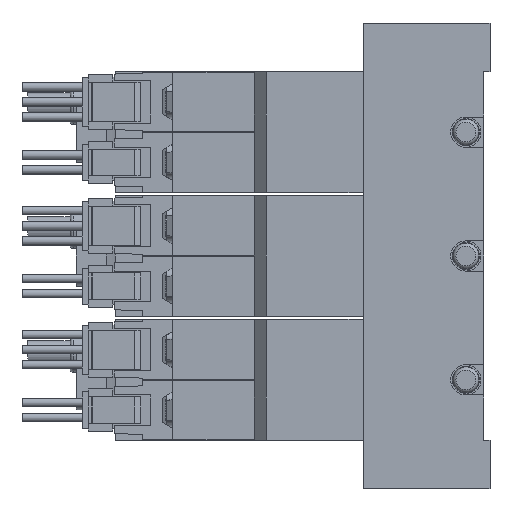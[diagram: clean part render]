
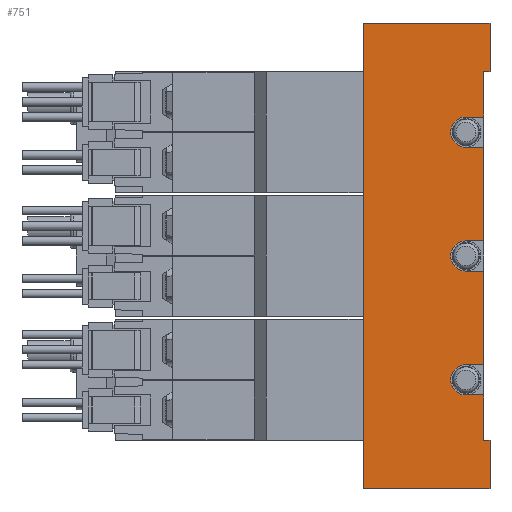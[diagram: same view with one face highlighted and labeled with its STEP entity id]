
A CAD part, left-side view. The second image highlights one B-rep face of the part: STEP entity #751.
In plain terms, the highlighted planar face has unit normal (-1, 0, 0) as drawn and (1, 0, 0) by its records, which use the part's own axes.
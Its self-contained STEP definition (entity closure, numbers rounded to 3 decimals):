
#751=ADVANCED_FACE('',(#1588),#1589,.F.);
#1588=FACE_OUTER_BOUND('',#2528,.T.);
#1589=PLANE('',#2529);
#2528=EDGE_LOOP('',(#5540,#5541,#5542,#5543,#5544,#5545,#5546,#5547,#5548,#5549,#5550,#5551,#5552,#5553,#5554,#5555,#5556,#5557,#5558,#5559));
#2529=AXIS2_PLACEMENT_3D('',#5560,#5561,#5562);
#5540=ORIENTED_EDGE('',*,*,#6853,.T.);
#5541=ORIENTED_EDGE('',*,*,#6844,.T.);
#5542=ORIENTED_EDGE('',*,*,#6854,.F.);
#5543=ORIENTED_EDGE('',*,*,#6855,.F.);
#5544=ORIENTED_EDGE('',*,*,#6856,.T.);
#5545=ORIENTED_EDGE('',*,*,#6857,.T.);
#5546=ORIENTED_EDGE('',*,*,#6858,.T.);
#5547=ORIENTED_EDGE('',*,*,#6859,.F.);
#5548=ORIENTED_EDGE('',*,*,#6860,.F.);
#5549=ORIENTED_EDGE('',*,*,#6836,.F.);
#5550=ORIENTED_EDGE('',*,*,#6861,.T.);
#5551=ORIENTED_EDGE('',*,*,#6862,.F.);
#5552=ORIENTED_EDGE('',*,*,#6863,.F.);
#5553=ORIENTED_EDGE('',*,*,#6864,.F.);
#5554=ORIENTED_EDGE('',*,*,#6865,.T.);
#5555=ORIENTED_EDGE('',*,*,#6819,.F.);
#5556=ORIENTED_EDGE('',*,*,#6817,.F.);
#5557=ORIENTED_EDGE('',*,*,#6866,.F.);
#5558=ORIENTED_EDGE('',*,*,#6867,.T.);
#5559=ORIENTED_EDGE('',*,*,#6868,.T.);
#5560=CARTESIAN_POINT('',(17.5,1.0,38.5));
#5561=DIRECTION('',(-1.0,0.0,0.0));
#5562=DIRECTION('',(0.0,0.0,1.0));
#6817=EDGE_CURVE('',#8422,#8424,#8425,.T.);
#6819=EDGE_CURVE('',#8424,#8427,#8428,.T.);
#6836=EDGE_CURVE('',#8458,#8459,#8460,.T.);
#6844=EDGE_CURVE('',#8473,#8474,#8475,.T.);
#6853=EDGE_CURVE('',#8491,#8473,#8492,.T.);
#6854=EDGE_CURVE('',#8493,#8474,#8494,.T.);
#6855=EDGE_CURVE('',#8495,#8493,#8496,.T.);
#6856=EDGE_CURVE('',#8495,#8497,#8498,.T.);
#6857=EDGE_CURVE('',#8497,#8499,#8500,.T.);
#6858=EDGE_CURVE('',#8499,#8501,#8502,.T.);
#6859=EDGE_CURVE('',#8503,#8501,#8504,.T.);
#6860=EDGE_CURVE('',#8459,#8503,#8505,.T.);
#6861=EDGE_CURVE('',#8458,#8506,#8507,.T.);
#6862=EDGE_CURVE('',#8508,#8506,#8509,.T.);
#6863=EDGE_CURVE('',#8510,#8508,#8511,.T.);
#6864=EDGE_CURVE('',#8512,#8510,#8513,.T.);
#6865=EDGE_CURVE('',#8512,#8427,#8514,.T.);
#6866=EDGE_CURVE('',#8515,#8422,#8516,.T.);
#6867=EDGE_CURVE('',#8515,#8517,#8518,.T.);
#6868=EDGE_CURVE('',#8517,#8491,#8519,.T.);
#8422=VERTEX_POINT('',#11020);
#8424=VERTEX_POINT('',#11023);
#8425=CIRCLE('',#11024,2.5);
#8427=VERTEX_POINT('',#11027);
#8428=LINE('',#11028,#11029);
#8458=VERTEX_POINT('',#11153);
#8459=VERTEX_POINT('',#11154);
#8460=LINE('',#11155,#11156);
#8473=VERTEX_POINT('',#11172);
#8474=VERTEX_POINT('',#11173);
#8475=LINE('',#11174,#11175);
#8491=VERTEX_POINT('',#11196);
#8492=LINE('',#11197,#11198);
#8493=VERTEX_POINT('',#11199);
#8494=LINE('',#11200,#11201);
#8495=VERTEX_POINT('',#11202);
#8496=LINE('',#11203,#11204);
#8497=VERTEX_POINT('',#11205);
#8498=LINE('',#11206,#11207);
#8499=VERTEX_POINT('',#11208);
#8500=LINE('',#11209,#11210);
#8501=VERTEX_POINT('',#11211);
#8502=LINE('',#11212,#11213);
#8503=VERTEX_POINT('',#11214);
#8504=LINE('',#11215,#11216);
#8505=CIRCLE('',#11217,2.5);
#8506=VERTEX_POINT('',#11218);
#8507=LINE('',#11219,#11220);
#8508=VERTEX_POINT('',#11221);
#8509=LINE('',#11222,#11223);
#8510=VERTEX_POINT('',#11224);
#8511=CIRCLE('',#11225,2.5);
#8512=VERTEX_POINT('',#11226);
#8513=LINE('',#11227,#11228);
#8514=LINE('',#11229,#11230);
#8515=VERTEX_POINT('',#11231);
#8516=LINE('',#11232,#11233);
#8517=VERTEX_POINT('',#11234);
#8518=LINE('',#11235,#11236);
#8519=LINE('',#11237,#11238);
#11020=CARTESIAN_POINT('',(17.5,4.0,-23.0));
#11023=CARTESIAN_POINT('',(17.5,4.0,-18.0));
#11024=AXIS2_PLACEMENT_3D('',#12506,#12507,#12508);
#11027=CARTESIAN_POINT('',(17.5,1.0,-18.0));
#11028=CARTESIAN_POINT('',(17.5,1.0,-18.0));
#11029=VECTOR('',#12510,1.0);
#11153=CARTESIAN_POINT('',(17.5,1.0,18.0));
#11154=CARTESIAN_POINT('',(17.5,4.0,18.0));
#11155=CARTESIAN_POINT('',(17.5,1.0,18.0));
#11156=VECTOR('',#12538,1.0);
#11172=CARTESIAN_POINT('',(17.5,0.0,-38.5));
#11173=CARTESIAN_POINT('',(17.5,21.0,-38.5));
#11174=CARTESIAN_POINT('',(17.5,1.0,-38.5));
#11175=VECTOR('',#12554,1.0);
#11196=CARTESIAN_POINT('',(17.5,0.0,-30.5));
#11197=CARTESIAN_POINT('',(17.5,0.0,-30.5));
#11198=VECTOR('',#12569,1.0);
#11199=CARTESIAN_POINT('',(17.5,21.0,38.5));
#11200=CARTESIAN_POINT('',(17.5,21.0,38.5));
#11201=VECTOR('',#12570,1.0);
#11202=CARTESIAN_POINT('',(17.5,0.0,38.5));
#11203=CARTESIAN_POINT('',(17.5,1.0,38.5));
#11204=VECTOR('',#12571,1.0);
#11205=CARTESIAN_POINT('',(17.5,0.0,30.5));
#11206=CARTESIAN_POINT('',(17.5,0.0,38.5));
#11207=VECTOR('',#12572,1.0);
#11208=CARTESIAN_POINT('',(17.5,1.0,30.5));
#11209=CARTESIAN_POINT('',(17.5,0.0,30.5));
#11210=VECTOR('',#12573,1.0);
#11211=CARTESIAN_POINT('',(17.5,1.0,23.0));
#11212=CARTESIAN_POINT('',(17.5,1.0,38.5));
#11213=VECTOR('',#12574,1.0);
#11214=CARTESIAN_POINT('',(17.5,4.0,23.0));
#11215=CARTESIAN_POINT('',(17.5,1.0,23.0));
#11216=VECTOR('',#12575,1.0);
#11217=AXIS2_PLACEMENT_3D('',#12576,#12577,#12578);
#11218=CARTESIAN_POINT('',(17.5,1.0,2.5));
#11219=CARTESIAN_POINT('',(17.5,1.0,38.5));
#11220=VECTOR('',#12579,1.0);
#11221=CARTESIAN_POINT('',(17.5,4.0,2.5));
#11222=CARTESIAN_POINT('',(17.5,1.0,2.5));
#11223=VECTOR('',#12580,1.0);
#11224=CARTESIAN_POINT('',(17.5,4.0,-2.5));
#11225=AXIS2_PLACEMENT_3D('',#12581,#12582,#12583);
#11226=CARTESIAN_POINT('',(17.5,1.0,-2.5));
#11227=CARTESIAN_POINT('',(17.5,1.0,-2.5));
#11228=VECTOR('',#12584,1.0);
#11229=CARTESIAN_POINT('',(17.5,1.0,38.5));
#11230=VECTOR('',#12585,1.0);
#11231=CARTESIAN_POINT('',(17.5,1.0,-23.0));
#11232=CARTESIAN_POINT('',(17.5,1.0,-23.0));
#11233=VECTOR('',#12586,1.0);
#11234=CARTESIAN_POINT('',(17.5,1.0,-30.5));
#11235=CARTESIAN_POINT('',(17.5,1.0,38.5));
#11236=VECTOR('',#12587,1.0);
#11237=CARTESIAN_POINT('',(17.5,4.0,-30.5));
#11238=VECTOR('',#12588,1.0);
#12506=CARTESIAN_POINT('',(17.5,4.0,-20.5));
#12507=DIRECTION('',(1.0,0.0,-0.0));
#12508=DIRECTION('',(0.0,0.0,1.0));
#12510=DIRECTION('',(0.0,-1.0,0.0));
#12538=DIRECTION('',(0.0,1.0,0.0));
#12554=DIRECTION('',(0.0,1.0,0.0));
#12569=DIRECTION('',(0.0,0.0,-1.0));
#12570=DIRECTION('',(0.0,0.0,-1.0));
#12571=DIRECTION('',(0.0,1.0,0.0));
#12572=DIRECTION('',(0.0,0.0,-1.0));
#12573=DIRECTION('',(0.0,1.0,0.0));
#12574=DIRECTION('',(0.0,0.0,-1.0));
#12575=DIRECTION('',(0.0,-1.0,0.0));
#12576=CARTESIAN_POINT('',(17.5,4.0,20.5));
#12577=DIRECTION('',(1.0,0.0,-0.0));
#12578=DIRECTION('',(0.0,0.0,1.0));
#12579=DIRECTION('',(0.0,0.0,-1.0));
#12580=DIRECTION('',(0.0,-1.0,0.0));
#12581=CARTESIAN_POINT('',(17.5,4.0,0.0));
#12582=DIRECTION('',(1.0,0.0,-0.0));
#12583=DIRECTION('',(0.0,0.0,1.0));
#12584=DIRECTION('',(0.0,1.0,0.0));
#12585=DIRECTION('',(0.0,0.0,-1.0));
#12586=DIRECTION('',(0.0,1.0,0.0));
#12587=DIRECTION('',(0.0,0.0,-1.0));
#12588=DIRECTION('',(0.0,-1.0,0.0));
